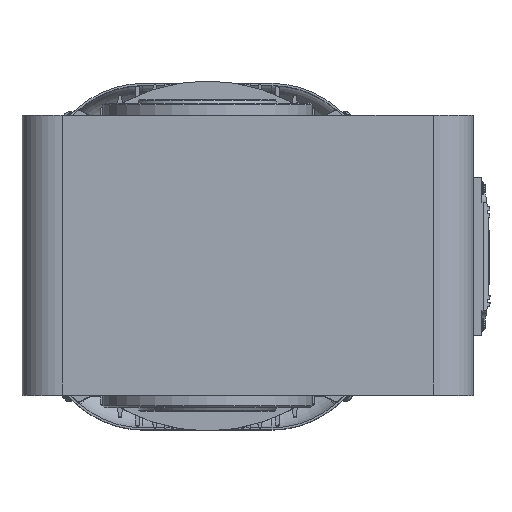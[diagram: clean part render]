
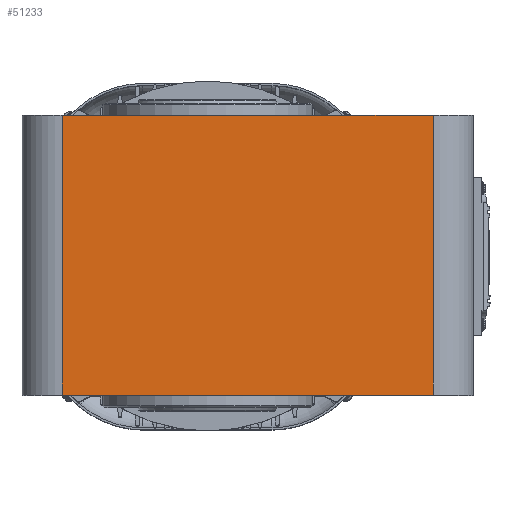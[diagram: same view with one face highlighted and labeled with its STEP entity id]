
A CAD part, top view. The second image highlights one B-rep face of the part: STEP entity #51233.
In plain terms, the highlighted planar face has unit normal (0, 0, 1) as drawn and (-1, 0, 0) by its records, which use the part's own axes.
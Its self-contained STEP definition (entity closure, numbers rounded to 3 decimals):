
#50585=CARTESIAN_POINT('',(0.,235.,160.0));
#50586=VERTEX_POINT('',#50585);
#50594=CARTESIAN_POINT('',(0.,23.,160.0));
#50595=VERTEX_POINT('',#50594);
#50596=CARTESIAN_POINT('',(0.,23.,160.0));
#50597=DIRECTION('',(0.0,1.0,0.0));
#50598=VECTOR('',#50597,212.);
#50599=LINE('',#50596,#50598);
#50600=EDGE_CURVE('',#50595,#50586,#50599,.T.);
#51191=CARTESIAN_POINT('',(0.,23.,0.0));
#51192=VERTEX_POINT('',#51191);
#51193=CARTESIAN_POINT('',(0.,23.,160.0));
#51194=DIRECTION('',(0.0,0.0,-1.0));
#51195=VECTOR('',#51194,160.0);
#51196=LINE('',#51193,#51195);
#51197=EDGE_CURVE('',#50595,#51192,#51196,.T.);
#51210=CARTESIAN_POINT('',(0.0,0.0,0.0));
#51211=DIRECTION('',(-1.0,0.0,0.0));
#51212=DIRECTION('',(0.0,0.0,1.0));
#51213=AXIS2_PLACEMENT_3D('',#51210,#51211,#51212);
#51214=PLANE('',#51213);
#51215=ORIENTED_EDGE('',*,*,#51197,.F.);
#51216=ORIENTED_EDGE('',*,*,#50600,.T.);
#51217=CARTESIAN_POINT('',(0.,235.,0.0));
#51218=VERTEX_POINT('',#51217);
#51219=CARTESIAN_POINT('',(0.,235.,0.0));
#51220=DIRECTION('',(0.0,0.0,1.0));
#51221=VECTOR('',#51220,160.0);
#51222=LINE('',#51219,#51221);
#51223=EDGE_CURVE('',#51218,#50586,#51222,.T.);
#51224=ORIENTED_EDGE('',*,*,#51223,.F.);
#51225=CARTESIAN_POINT('',(0.,235.0,0.0));
#51226=DIRECTION('',(0.0,-1.0,0.0));
#51227=VECTOR('',#51226,212.);
#51228=LINE('',#51225,#51227);
#51229=EDGE_CURVE('',#51218,#51192,#51228,.T.);
#51230=ORIENTED_EDGE('',*,*,#51229,.T.);
#51231=EDGE_LOOP('',(#51215,#51216,#51224,#51230));
#51232=FACE_OUTER_BOUND('',#51231,.T.);
#51233=ADVANCED_FACE('',(#51232),#51214,.T.);
